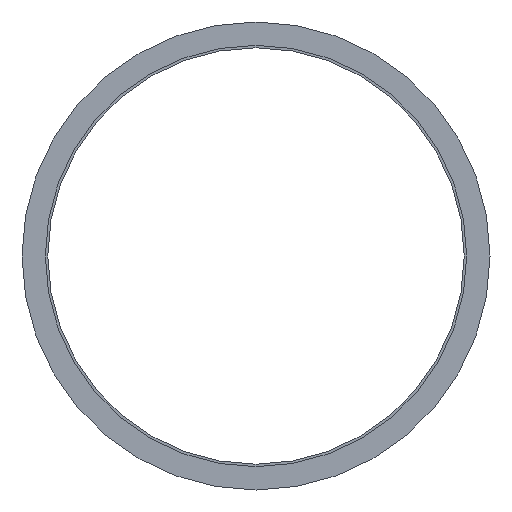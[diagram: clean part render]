
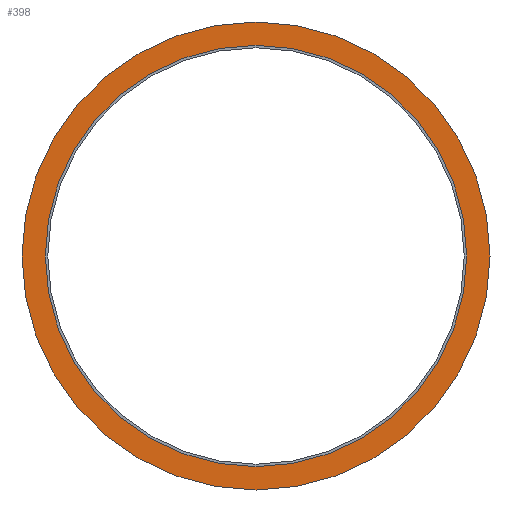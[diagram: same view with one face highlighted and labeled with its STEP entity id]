
A CAD part, front view. The second image highlights one B-rep face of the part: STEP entity #398.
In plain terms, the highlighted planar face has unit normal (0, -1, 0).
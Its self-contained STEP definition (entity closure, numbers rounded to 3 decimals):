
#12 = AXIS2_PLACEMENT_3D ( 'NONE', #476, #293, #63 ) ;
#14 = VERTEX_POINT ( 'NONE', #320 ) ;
#24 = DIRECTION ( 'NONE',  ( 0., 0., -1. ) ) ;
#38 = FACE_OUTER_BOUND ( 'NONE', #295, .T. ) ;
#63 = DIRECTION ( 'NONE',  ( 0., 0., -1. ) ) ;
#67 = ORIENTED_EDGE ( 'NONE', *, *, #553, .F. ) ;
#77 = CARTESIAN_POINT ( 'NONE',  ( 0., 0., 130.55 ) ) ;
#80 = CIRCLE ( 'NONE', #12, 130.55 ) ;
#82 = EDGE_LOOP ( 'NONE', ( #67, #156 ) ) ;
#89 = VERTEX_POINT ( 'NONE', #514 ) ;
#107 = AXIS2_PLACEMENT_3D ( 'NONE', #189, #183, #543 ) ;
#111 = AXIS2_PLACEMENT_3D ( 'NONE', #389, #387, #24 ) ;
#128 = VERTEX_POINT ( 'NONE', #530 ) ;
#156 = ORIENTED_EDGE ( 'NONE', *, *, #217, .F. ) ;
#169 = AXIS2_PLACEMENT_3D ( 'NONE', #221, #272, #309 ) ;
#171 = VERTEX_POINT ( 'NONE', #77 ) ;
#175 = DIRECTION ( 'NONE',  ( 0., 0., -1. ) ) ;
#183 = DIRECTION ( 'NONE',  ( 0., 1., 0. ) ) ;
#189 = CARTESIAN_POINT ( 'NONE',  ( 0., 0., 145. ) ) ;
#217 = EDGE_CURVE ( 'NONE', #171, #89, #577, .T. ) ;
#221 = CARTESIAN_POINT ( 'NONE',  ( 0., 0., 0. ) ) ;
#253 = FACE_BOUND ( 'NONE', #82, .T. ) ;
#259 = EDGE_CURVE ( 'NONE', #14, #128, #340, .T. ) ;
#272 = DIRECTION ( 'NONE',  ( 0., -1., 0. ) ) ;
#288 = EDGE_CURVE ( 'NONE', #128, #14, #593, .T. ) ;
#293 = DIRECTION ( 'NONE',  ( 0., -1., 0. ) ) ;
#295 = EDGE_LOOP ( 'NONE', ( #465, #507 ) ) ;
#308 = DIRECTION ( 'NONE',  ( 0., -1., 0. ) ) ;
#309 = DIRECTION ( 'NONE',  ( 0., 0., -1. ) ) ;
#320 = CARTESIAN_POINT ( 'NONE',  ( 0., 0., -145. ) ) ;
#340 = CIRCLE ( 'NONE', #435, 145. ) ;
#350 = CARTESIAN_POINT ( 'NONE',  ( 0., 0., 0. ) ) ;
#387 = DIRECTION ( 'NONE',  ( 0., -1., 0. ) ) ;
#389 = CARTESIAN_POINT ( 'NONE',  ( 0., 0., 0. ) ) ;
#398 = ADVANCED_FACE ( 'NONE', ( #253, #38 ), #451, .F. ) ;
#435 = AXIS2_PLACEMENT_3D ( 'NONE', #350, #308, #175 ) ;
#451 = PLANE ( 'NONE',  #107 ) ;
#465 = ORIENTED_EDGE ( 'NONE', *, *, #259, .T. ) ;
#476 = CARTESIAN_POINT ( 'NONE',  ( 0., 0., 0. ) ) ;
#507 = ORIENTED_EDGE ( 'NONE', *, *, #288, .T. ) ;
#514 = CARTESIAN_POINT ( 'NONE',  ( 0., 0., -130.55 ) ) ;
#530 = CARTESIAN_POINT ( 'NONE',  ( 0., 0., 145. ) ) ;
#543 = DIRECTION ( 'NONE',  ( 0., 0., 1. ) ) ;
#553 = EDGE_CURVE ( 'NONE', #89, #171, #80, .T. ) ;
#577 = CIRCLE ( 'NONE', #111, 130.55 ) ;
#593 = CIRCLE ( 'NONE', #169, 145. ) ;
